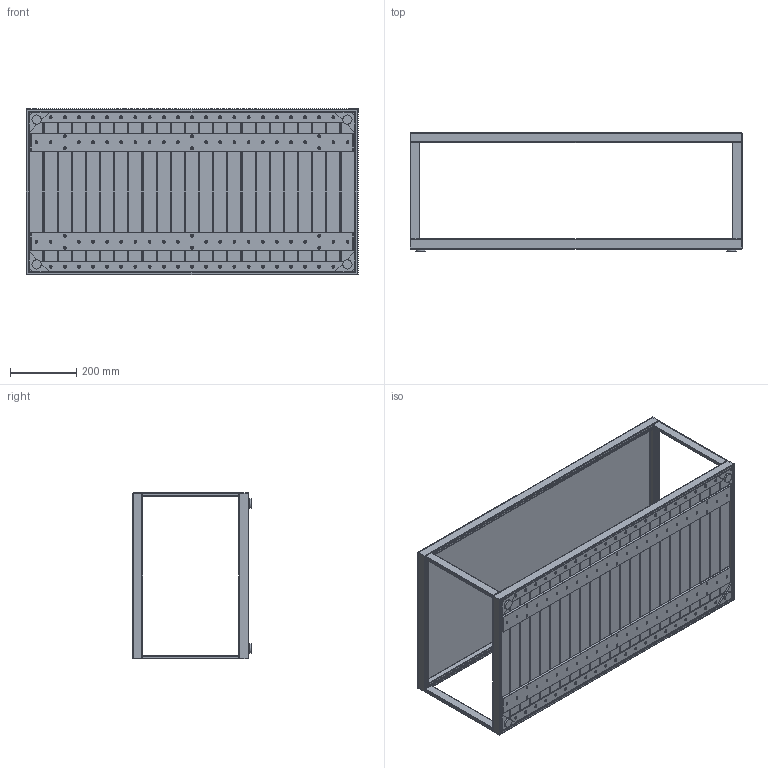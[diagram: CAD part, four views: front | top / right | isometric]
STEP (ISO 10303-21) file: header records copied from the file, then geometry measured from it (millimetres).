
FILE_DESCRIPTION(/* description */ (''),/* implementation_level */ '2;1');
FILE_NAME(/* name */ 'Moore Coffee Table 100x50.stp',/* time_stamp */ '2023-04-11T11:08:46+02:00',/* author */ ('TorbjörnMalm'),/* organization */ (''),/* preprocessor_version */ 'ST-DEVELOPER v19.2',/* originating_system */ 'Autodesk Inventor 2023',/* authorisation */ '');
FILE_SCHEMA (('AUTOMOTIVE_DESIGN { 1 0 10303 214 3 1 1 }'));
Products named in the file (95): Moore Coffee Table 100x50; Moore Coffee Table 100x501; Moore Coffee Table 100x502; Moore Coffee Table 100x503; Moore Coffee Table 100x504; Moore Coffee Table 100x505; Moore Coffee Table 100x506; Moore Coffee Table 100x507; Moore Coffee Table 100x508; Moore Coffee Table 100x509; Moore Coffee Table 100x5010; Moore Coffee Table 100x5011; Moore Coffee Table 100x5012; Moore Coffee Table 100x5013; Moore Coffee Table 100x5014; Moore Coffee Table 100x5015; Moore Coffee Table 100x5016; Moore Coffee Table 100x5017; Moore Coffee Table 100x5018; Moore Coffee Table 100x5019; Moore Coffee Table 100x5020; Moore Coffee Table 100x5021; Moore Coffee Table 100x5022; Moore Coffee Table 100x5023; Moore Coffee Table 100x5024; Moore Coffee Table 100x5025; Moore Coffee Table 100x5026; Moore Coffee Table 100x5027; Moore Coffee Table 100x5028; Moore Coffee Table 100x5029; Moore Coffee Table 100x5030; Moore Coffee Table 100x5031; Moore Coffee Table 100x5032; Moore Coffee Table 100x5033; Moore Coffee Table 100x5034; Moore Coffee Table 100x5035; Moore Coffee Table 100x5036; Moore Coffee Table 100x5037; Moore Coffee Table 100x5038; Moore Coffee Table 100x5039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
Assembly tree (94 placements, depth 2):
  Moore Coffee Table 100x50
    Moore Coffee Table 100x501
    Moore Coffee Table 100x502
    Moore Coffee Table 100x503
    Moore Coffee Table 100x504
    Moore Coffee Table 100x505
    Moore Coffee Table 100x506
    Moore Coffee Table 100x507
    Moore Coffee Table 100x508
    Moore Coffee Table 100x509
    Moore Coffee Table 100x5010
    Moore Coffee Table 100x5011
    Moore Coffee Table 100x5012
    Moore Coffee Table 100x5013
    Moore Coffee Table 100x5014
    Moore Coffee Table 100x5015
    Moore Coffee Table 100x5016
    Moore Coffee Table 100x5017
    Moore Coffee Table 100x5018
    Moore Coffee Table 100x5019
    Moore Coffee Table 100x5020
    Moore Coffee Table 100x5021
    Moore Coffee Table 100x5022
    Moore Coffee Table 100x5023
    Moore Coffee Table 100x5024
    Moore Coffee Table 100x5025
    Moore Coffee Table 100x5026
    Moore Coffee Table 100x5027
    Moore Coffee Table 100x5028
    Moore Coffee Table 100x5029
    Moore Coffee Table 100x5030
    Moore Coffee Table 100x5031
    Moore Coffee Table 100x5032
    Moore Coffee Table 100x5033
    Moore Coffee Table 100x5034
    Moore Coffee Table 100x5035
    Moore Coffee Table 100x5036
    Moore Coffee Table 100x5037
    Moore Coffee Table 100x5038
    Moore Coffee Table 100x5039
    Moore Coffee Table 100x5040
    Moore Coffee Table 100x5041
    Moore Coffee Table 100x5042
    Moore Coffee Table 100x5043
    Moore Coffee Table 100x5044
    Moore Coffee Table 100x5045
    Moore Coffee Table 100x5046
    Moore Coffee Table 100x5047
    Moore Coffee Table 100x5048
    Moore Coffee Table 100x5049
    Moore Coffee Table 100x5050
    Moore Coffee Table 100x5051
    Moore Coffee Table 100x5052
    Moore Coffee Table 100x5053
    Moore Coffee Table 100x5054
    Moore Coffee Table 100x5055
    Moore Coffee Table 100x5056
    Moore Coffee Table 100x5057
    Moore Coffee Table 100x5058
    Moore Coffee Table 100x5059
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Bounding box: 1000 x 357 x 500 mm (x, y, z)
Volume: 15392054.6 mm3; surface area: 4076863.4 mm2
Topology: 94 solids, 94 shells, 2086 faces, 5244 edges, 3354 vertices
Faces by surface type: plane 888, cone 564, cylinder 450, torus 168, sphere 16
Full cylindrical faces by diameter (mm): 3.5 x52, 4.2 x42, 5 x42, 6.647 x4, 8 x4, 8.4 x42, 11 x8, 20 x4, 28 x4
Entity records: 69740 total; most frequent: CARTESIAN_POINT 16711, ORIENTED_EDGE 10404, DIRECTION 10376, EDGE_CURVE 5202, AXIS2_PLACEMENT_3D 4075, VERTEX_POINT 3354, EDGE_LOOP 2380, LINE 2226
